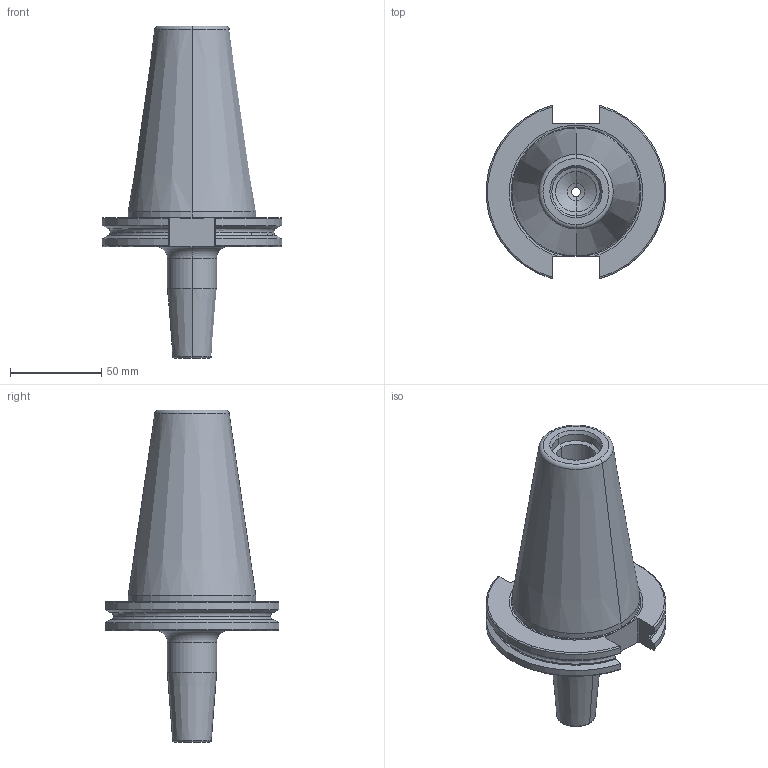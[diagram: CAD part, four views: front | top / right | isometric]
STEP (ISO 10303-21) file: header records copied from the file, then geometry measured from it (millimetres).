
FILE_DESCRIPTION (( 'STEP AP214' ), '1' );
FILE_NAME ('RC5SF0312315.STEP', '2019-02-28T19:15:23', ( '' ), ( '' ), 'SwSTEP 2.0', 'SolidWorks 2019', '' );
FILE_SCHEMA (( 'AUTOMOTIVE_DESIGN' ));
Length unit declared in the file: inch
Products named in the file (2): RC5SF0312315
Bounding box: 98.05 x 94.95 x 181.6 mm (x, y, z)
Volume: 346859.9 mm3; surface area: 50086 mm2
Topology: 1 solids, 1 shells, 97 faces, 242 edges, 147 vertices
Faces by surface type: cylinder 30, cone 27, torus 20, plane 20
Entity records: 4373 total; most frequent: CARTESIAN_POINT 752, DIRECTION 503, ORIENTED_EDGE 480, EDGE_CURVE 240, AXIS2_PLACEMENT_3D 204, VERTEX_POINT 147, CIRCLE 105, EDGE_LOOP 101
